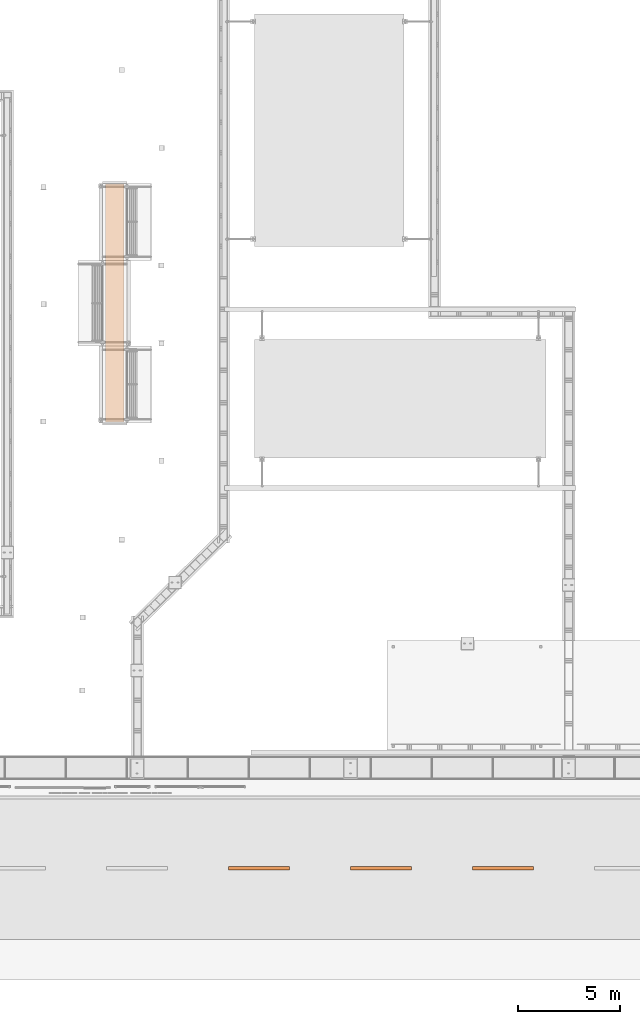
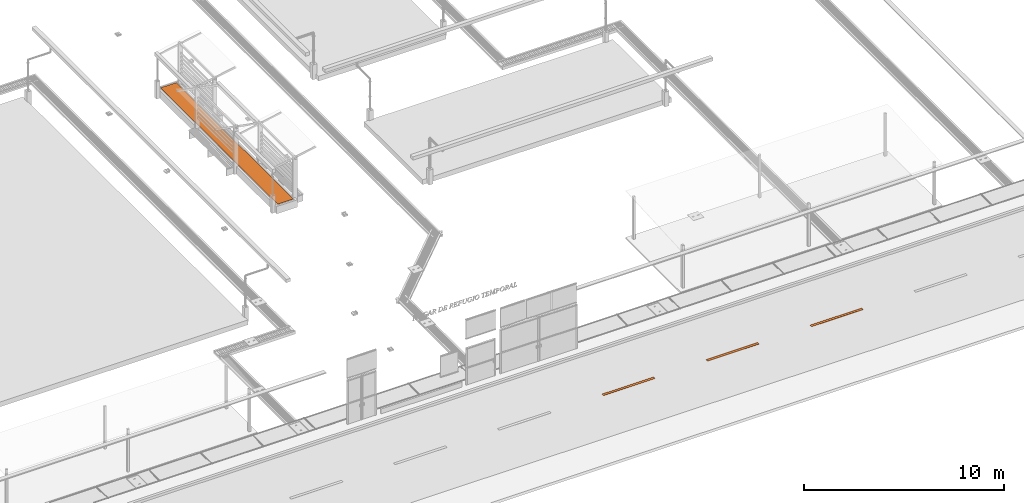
# One storey, part 86 of 90: 4 proxies.
"""IFC2X3 building model written with IfcOpenShell, lengths in metres."""

from ifc_helpers import new_model, si_unit, origin, origin_with_axes, place, context, subcontext, project, spatial, faceted_brep, element, save


model = new_model("IFC2X3")

# Units and contexts
model_context = context("Model", 3, precision=1e-05, world=origin_with_axes())
body_context = subcontext(model_context, "Body", "Model", "MODEL_VIEW")
ifc_project = project(units=[si_unit("LENGTHUNIT", "METRE"), si_unit("AREAUNIT", "SQUARE_METRE"), si_unit("VOLUMEUNIT", "CUBIC_METRE"), si_unit("PLANEANGLEUNIT", "RADIAN")], contexts=[model_context])

# Site, building, storey
site_placement = place(None, origin_with_axes())
site = spatial("IfcSite", under=ifc_project, at=site_placement, Name="Predio Los Mangos - Morales, San Martín", CompositionType="ELEMENT")
building_placement = place(site_placement, origin())
building = spatial("IfcBuilding", under=site, at=building_placement, Name="Hogar de Refugio Temporal", CompositionType="ELEMENT")
storey_placement = place(building_placement, origin())
storey = spatial("IfcBuildingStorey", under=building, at=storey_placement, Name="NIVEL 1 (NPT +0.00)", CompositionType="ELEMENT", Elevation=0.0)

# Proxies
proxy_1_placement = place(storey_placement, origin())
element("IfcBuildingElementProxy", 1, at=proxy_1_placement, inside=storey, Name="linea_carril", ObjectType="Losa deportiva y vía", context=body_context, shape_type="Brep", body=[
    faceted_brep([(44.0, 12.22, 0.02), (44.0, 12.38, 0.02), (47.0, 12.38, 0.02), (47.0, 12.22, 0.02), (44.0, 12.22, 0.025), (47.0, 12.22, 0.025), (47.0, 12.38, 0.025), (44.0, 12.38, 0.025)], [[[0, 1, 2, 3]], [[4, 5, 6, 7]], [[0, 3, 5, 4]], [[3, 2, 6, 5]], [[2, 1, 7, 6]], [[1, 0, 4, 7]]]),
])
proxy_2_placement = place(storey_placement, origin())
element("IfcBuildingElementProxy", 2, at=proxy_2_placement, inside=storey, Name="linea_carril", ObjectType="Losa deportiva y vía", context=body_context, shape_type="Brep", body=[
    faceted_brep([(50.0, 12.22, 0.02), (50.0, 12.38, 0.02), (53.0, 12.38, 0.02), (53.0, 12.22, 0.02), (50.0, 12.22, 0.025), (53.0, 12.22, 0.025), (53.0, 12.38, 0.025), (50.0, 12.38, 0.025)], [[[0, 1, 2, 3]], [[4, 5, 6, 7]], [[0, 3, 5, 4]], [[3, 2, 6, 5]], [[2, 1, 7, 6]], [[1, 0, 4, 7]]]),
])
proxy_3_placement = place(storey_placement, origin())
element("IfcBuildingElementProxy", 3, at=proxy_3_placement, inside=storey, Name="linea_carril", ObjectType="Losa deportiva y vía", context=body_context, shape_type="Brep", body=[
    faceted_brep([(56.0, 12.22, 0.02), (56.0, 12.38, 0.02), (59.0, 12.38, 0.02), (59.0, 12.22, 0.02), (56.0, 12.22, 0.025), (59.0, 12.22, 0.025), (59.0, 12.38, 0.025), (56.0, 12.38, 0.025)], [[[0, 1, 2, 3]], [[4, 5, 6, 7]], [[0, 3, 5, 4]], [[3, 2, 6, 5]], [[2, 1, 7, 6]], [[1, 0, 4, 7]]]),
])
proxy_4_placement = place(storey_placement, origin())
element("IfcBuildingElementProxy", 4, at=proxy_4_placement, inside=storey, Name="pasto_jardinera_0", ObjectType="Área verde", context=body_context, shape_type="Brep", body=[
    faceted_brep([(38.85, 45.955, 0.455), (38.85, 34.255, 0.455), (38.85, 34.255, 0.435), (38.85, 45.955, 0.435), (37.95, 34.255, 0.455), (37.95, 45.955, 0.455), (37.95, 45.955, 0.435), (37.95, 34.255, 0.435)], [[[0, 1, 2, 3]], [[4, 5, 6, 7]], [[1, 0, 5, 4]], [[2, 7, 6, 3]], [[5, 0, 3, 6]], [[1, 4, 7, 2]]]),
])

save(model, "model.ifc")
